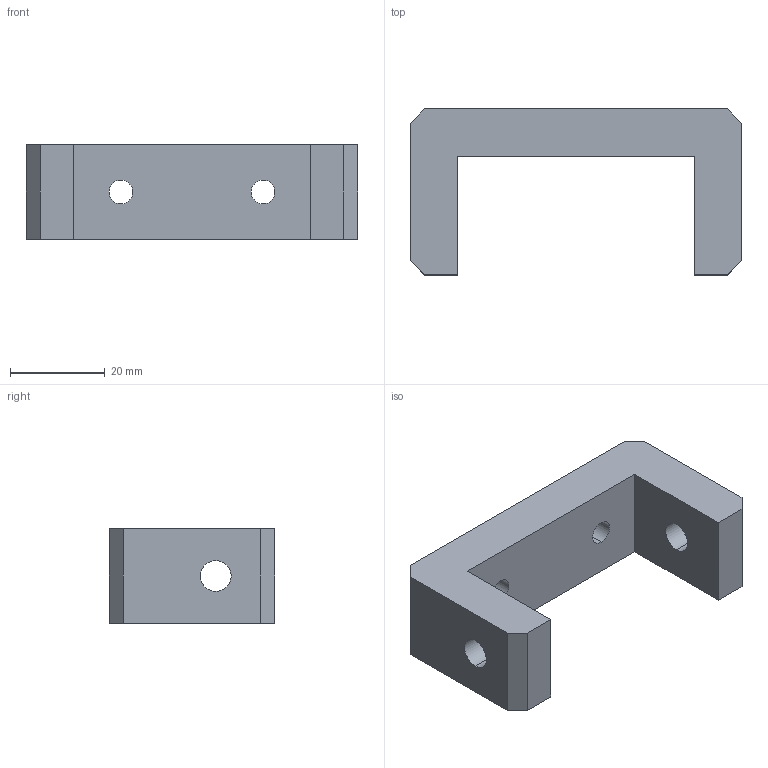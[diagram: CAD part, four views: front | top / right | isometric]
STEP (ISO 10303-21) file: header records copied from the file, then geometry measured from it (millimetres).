
FILE_DESCRIPTION (( 'STEP AP214' ), '1' );
FILE_NAME ('131034.STEP', '2021-10-20T10:59:57', ( '' ), ( '' ), 'SwSTEP 2.0', 'SolidWorks 2018', '' );
FILE_SCHEMA (( 'AUTOMOTIVE_DESIGN' ));
Length unit declared in the file: millimetre
Products named in the file (1): 131034
Bounding box: 70 x 35 x 20 mm (x, y, z)
Volume: 22583.6 mm3; surface area: 7934.7 mm2
Topology: 1 solids, 1 shells, 22 faces, 60 edges, 40 vertices
Faces by surface type: plane 14, cylinder 8
Entity records: 794 total; most frequent: CARTESIAN_POINT 123, DIRECTION 122, ORIENTED_EDGE 120, EDGE_CURVE 60, VECTOR 44, LINE 44, VERTEX_POINT 40, AXIS2_PLACEMENT_3D 39
